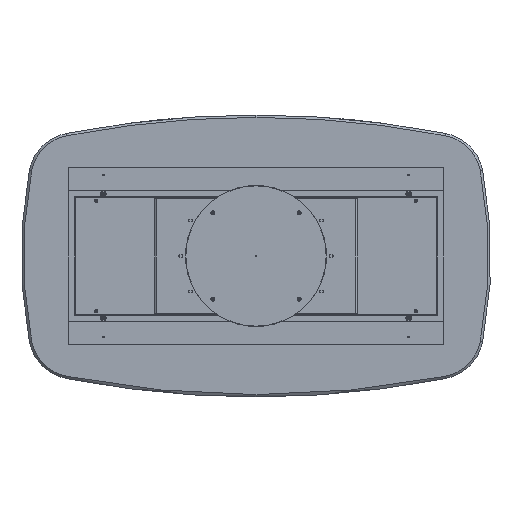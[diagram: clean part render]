
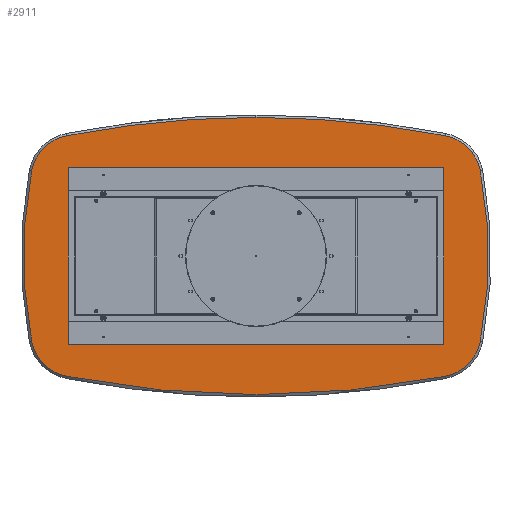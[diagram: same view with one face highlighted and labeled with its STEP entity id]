
A CAD part, front view. The second image highlights one B-rep face of the part: STEP entity #2911.
In plain terms, the highlighted planar face has unit normal (0, -1, 0).
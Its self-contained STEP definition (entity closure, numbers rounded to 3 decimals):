
#241 = CARTESIAN_POINT ( 'NONE',  ( 768.435, 0., -325.495 ) ) ;
#317 = CARTESIAN_POINT ( 'NONE',  ( -768.435, 0., 325.495 ) ) ;
#507 = CARTESIAN_POINT ( 'NONE',  ( -894., 0., 0. ) ) ;
#529 = VERTEX_POINT ( 'NONE', #13959 ) ;
#571 = CARTESIAN_POINT ( 'NONE',  ( 0., 0., -3600. ) ) ;
#681 = EDGE_CURVE ( 'NONE', #15224, #10881, #9339, .T. ) ;
#742 = ORIENTED_EDGE ( 'NONE', *, *, #16697, .T. ) ;
#1181 = ORIENTED_EDGE ( 'NONE', *, *, #9957, .T. ) ;
#1182 = EDGE_LOOP ( 'NONE', ( #7395, #742, #15106, #15890, #12287, #1181, #4398, #13982, #5118 ) ) ;
#1715 = AXIS2_PLACEMENT_3D ( 'NONE', #5531, #10848, #14867 ) ;
#1752 = VERTEX_POINT ( 'NONE', #3049 ) ;
#2449 = EDGE_CURVE ( 'NONE', #15768, #13700, #14668, .T. ) ;
#2911 = ADVANCED_FACE ( 'NONE', ( #14177 ), #4755, .F. ) ;
#3049 = CARTESIAN_POINT ( 'NONE',  ( 954.894, 0., -362.002 ) ) ;
#3267 = DIRECTION ( 'NONE',  ( 0., 1., 0. ) ) ;
#3413 = DIRECTION ( 'NONE',  ( 0., -1., 0. ) ) ;
#3513 = CARTESIAN_POINT ( 'NONE',  ( 804.935, 0., -511.956 ) ) ;
#3764 = CIRCLE ( 'NONE', #9893, 190. ) ;
#4071 = CIRCLE ( 'NONE', #9106, 4190. ) ;
#4359 = DIRECTION ( 'NONE',  ( 0., 0., 1. ) ) ;
#4398 = ORIENTED_EDGE ( 'NONE', *, *, #2449, .T. ) ;
#4581 = DIRECTION ( 'NONE',  ( 0., 0., 1. ) ) ;
#4755 = PLANE ( 'NONE',  #5634 ) ;
#4776 = DIRECTION ( 'NONE',  ( 0., 0., 1. ) ) ;
#4998 = CIRCLE ( 'NONE', #16979, 190. ) ;
#5118 = ORIENTED_EDGE ( 'NONE', *, *, #9706, .T. ) ;
#5148 = DIRECTION ( 'NONE',  ( 0., -1., 0. ) ) ;
#5523 = CIRCLE ( 'NONE', #8310, 190. ) ;
#5531 = CARTESIAN_POINT ( 'NONE',  ( 0., 0., 3600. ) ) ;
#5596 = DIRECTION ( 'NONE',  ( 0., 0., 1. ) ) ;
#5634 = AXIS2_PLACEMENT_3D ( 'NONE', #15396, #3267, #4581 ) ;
#5834 = CARTESIAN_POINT ( 'NONE',  ( 0., 0., 590. ) ) ;
#5910 = CARTESIAN_POINT ( 'NONE',  ( -954.894, 0., -362.002 ) ) ;
#6220 = CARTESIAN_POINT ( 'NONE',  ( 894., 0., 0. ) ) ;
#7138 = CIRCLE ( 'NONE', #12152, 1884. ) ;
#7395 = ORIENTED_EDGE ( 'NONE', *, *, #13911, .T. ) ;
#8310 = AXIS2_PLACEMENT_3D ( 'NONE', #9247, #5148, #10640 ) ;
#8590 = EDGE_CURVE ( 'NONE', #13700, #11994, #3764, .T. ) ;
#9106 = AXIS2_PLACEMENT_3D ( 'NONE', #571, #13779, #4359 ) ;
#9227 = CIRCLE ( 'NONE', #1715, 4190. ) ;
#9247 = CARTESIAN_POINT ( 'NONE',  ( -768.435, 0., -325.495 ) ) ;
#9339 = CIRCLE ( 'NONE', #16014, 190. ) ;
#9516 = EDGE_CURVE ( 'NONE', #1752, #15224, #12710, .T. ) ;
#9706 = EDGE_CURVE ( 'NONE', #11994, #10536, #7138, .T. ) ;
#9893 = AXIS2_PLACEMENT_3D ( 'NONE', #317, #16307, #13694 ) ;
#9942 = CARTESIAN_POINT ( 'NONE',  ( 804.935, 0., 511.956 ) ) ;
#9957 = EDGE_CURVE ( 'NONE', #10881, #15768, #4071, .T. ) ;
#10536 = VERTEX_POINT ( 'NONE', #5910 ) ;
#10640 = DIRECTION ( 'NONE',  ( 0., 0., 1. ) ) ;
#10690 = CARTESIAN_POINT ( 'NONE',  ( 768.435, 0., 325.495 ) ) ;
#10750 = AXIS2_PLACEMENT_3D ( 'NONE', #507, #11271, #13803 ) ;
#10759 = AXIS2_PLACEMENT_3D ( 'NONE', #16729, #14113, #4776 ) ;
#10781 = DIRECTION ( 'NONE',  ( 0., -1., 0. ) ) ;
#10848 = DIRECTION ( 'NONE',  ( 0., -1., 0. ) ) ;
#10881 = VERTEX_POINT ( 'NONE', #9942 ) ;
#11271 = DIRECTION ( 'NONE',  ( 0., -1., 0. ) ) ;
#11853 = VERTEX_POINT ( 'NONE', #3513 ) ;
#11994 = VERTEX_POINT ( 'NONE', #13453 ) ;
#12152 = AXIS2_PLACEMENT_3D ( 'NONE', #6220, #3413, #12839 ) ;
#12287 = ORIENTED_EDGE ( 'NONE', *, *, #681, .T. ) ;
#12710 = CIRCLE ( 'NONE', #10750, 1884. ) ;
#12839 = DIRECTION ( 'NONE',  ( 0., 0., 1. ) ) ;
#13453 = CARTESIAN_POINT ( 'NONE',  ( -954.894, 0., 362.002 ) ) ;
#13694 = DIRECTION ( 'NONE',  ( 0., 0., 1. ) ) ;
#13700 = VERTEX_POINT ( 'NONE', #16760 ) ;
#13779 = DIRECTION ( 'NONE',  ( 0., -1., 0. ) ) ;
#13803 = DIRECTION ( 'NONE',  ( 0., 0., 1. ) ) ;
#13911 = EDGE_CURVE ( 'NONE', #10536, #529, #5523, .T. ) ;
#13959 = CARTESIAN_POINT ( 'NONE',  ( -804.935, 0., -511.956 ) ) ;
#13965 = CARTESIAN_POINT ( 'NONE',  ( 954.894, 0., 362.002 ) ) ;
#13982 = ORIENTED_EDGE ( 'NONE', *, *, #8590, .T. ) ;
#14113 = DIRECTION ( 'NONE',  ( 0., -1., 0. ) ) ;
#14177 = FACE_OUTER_BOUND ( 'NONE', #1182, .T. ) ;
#14668 = CIRCLE ( 'NONE', #10759, 4190. ) ;
#14710 = DIRECTION ( 'NONE',  ( 0., 0., 1. ) ) ;
#14867 = DIRECTION ( 'NONE',  ( 0., 0., 1. ) ) ;
#15018 = DIRECTION ( 'NONE',  ( 0., -1., 0. ) ) ;
#15106 = ORIENTED_EDGE ( 'NONE', *, *, #15288, .T. ) ;
#15224 = VERTEX_POINT ( 'NONE', #13965 ) ;
#15288 = EDGE_CURVE ( 'NONE', #11853, #1752, #4998, .T. ) ;
#15396 = CARTESIAN_POINT ( 'NONE',  ( -447., 0., 1800. ) ) ;
#15768 = VERTEX_POINT ( 'NONE', #5834 ) ;
#15890 = ORIENTED_EDGE ( 'NONE', *, *, #9516, .T. ) ;
#16014 = AXIS2_PLACEMENT_3D ( 'NONE', #10690, #10781, #14710 ) ;
#16307 = DIRECTION ( 'NONE',  ( 0., -1., 0. ) ) ;
#16697 = EDGE_CURVE ( 'NONE', #529, #11853, #9227, .T. ) ;
#16729 = CARTESIAN_POINT ( 'NONE',  ( 0., 0., -3600. ) ) ;
#16760 = CARTESIAN_POINT ( 'NONE',  ( -804.935, 0., 511.956 ) ) ;
#16979 = AXIS2_PLACEMENT_3D ( 'NONE', #241, #15018, #5596 ) ;
